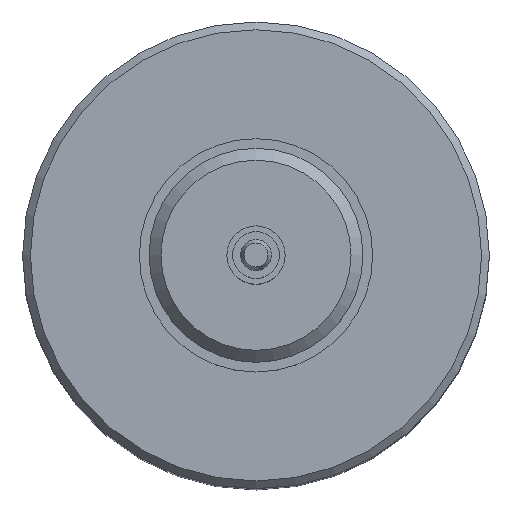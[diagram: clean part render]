
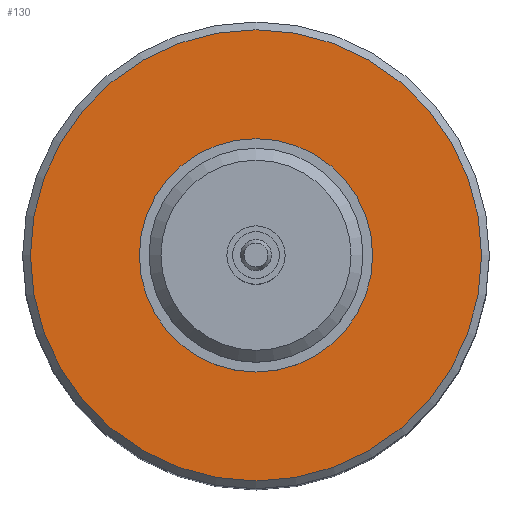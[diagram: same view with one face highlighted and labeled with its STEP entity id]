
A CAD part, top view. The second image highlights one B-rep face of the part: STEP entity #130.
In plain terms, the highlighted planar face has unit normal (0, 0, 1).
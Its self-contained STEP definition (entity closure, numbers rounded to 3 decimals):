
#130=ADVANCED_FACE('',(#319,#320),#211,.T.);
#211=PLANE('',#1364);
#264=CIRCLE('',#1362,5.8);
#265=CIRCLE('',#1363,3.);
#319=FACE_BOUND('',#391,.T.);
#320=FACE_BOUND('',#392,.T.);
#391=EDGE_LOOP('',(#555));
#392=EDGE_LOOP('',(#556));
#555=ORIENTED_EDGE('',*,*,#1004,.T.);
#556=ORIENTED_EDGE('',*,*,#1005,.F.);
#877=VERTEX_POINT('',#1968);
#878=VERTEX_POINT('',#1970);
#1004=EDGE_CURVE('',#877,#877,#264,.T.);
#1005=EDGE_CURVE('',#878,#878,#265,.T.);
#1362=AXIS2_PLACEMENT_3D('',#1967,#1560,#1561);
#1363=AXIS2_PLACEMENT_3D('',#1969,#1562,#1563);
#1364=AXIS2_PLACEMENT_3D('',#1971,#1564,#1565);
#1560=DIRECTION('',(0.,0.,1.));
#1561=DIRECTION('',(1.,0.,0.));
#1562=DIRECTION('',(0.,0.,1.));
#1563=DIRECTION('',(1.,0.,0.));
#1564=DIRECTION('',(0.,0.,1.));
#1565=DIRECTION('',(1.,0.,0.));
#1967=CARTESIAN_POINT('',(0.,0.,0.));
#1968=CARTESIAN_POINT('',(5.8,0.,0.));
#1969=CARTESIAN_POINT('',(0.,0.,0.));
#1970=CARTESIAN_POINT('',(3.,0.,0.));
#1971=CARTESIAN_POINT('',(0.,0.,0.));
